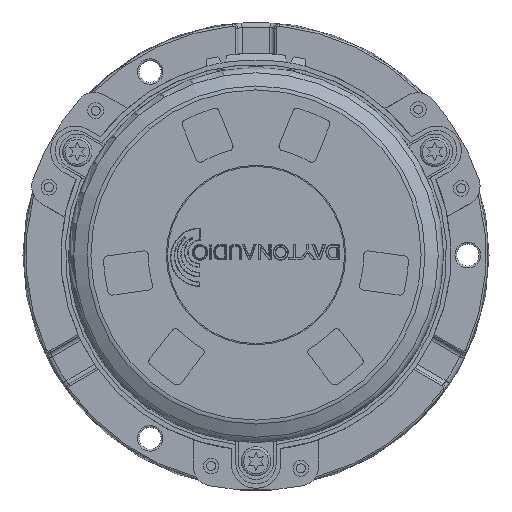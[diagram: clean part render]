
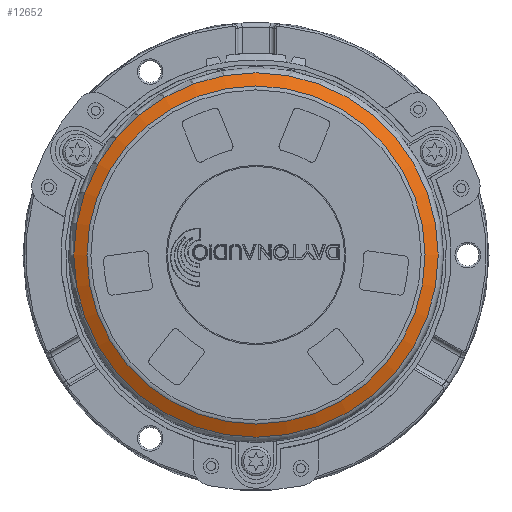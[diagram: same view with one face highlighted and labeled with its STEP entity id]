
A CAD part, front view. The second image highlights one B-rep face of the part: STEP entity #12652.
In plain terms, the highlighted conical face has half-angle 64.093 degrees and reference radius 39.157 mm.
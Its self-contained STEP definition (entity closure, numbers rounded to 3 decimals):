
#438=CONICAL_SURFACE('',#13806,39.157,1.119);
#1380=FACE_OUTER_BOUND('',#2203,.T.);
#2203=EDGE_LOOP('',(#10548,#10549,#10550,#10551,#10552,#10553));
#3241=LINE('',#24484,#4197);
#4197=VECTOR('',#16722,39.157);
#4711=CIRCLE('',#13761,40.624);
#4715=CIRCLE('',#13765,40.624);
#4736=CIRCLE('',#13807,37.69);
#4737=CIRCLE('',#13808,37.69);
#5835=VERTEX_POINT('',#24367);
#5836=VERTEX_POINT('',#24368);
#5872=VERTEX_POINT('',#24483);
#5873=VERTEX_POINT('',#24485);
#7437=EDGE_CURVE('',#5835,#5836,#4711,.T.);
#7441=EDGE_CURVE('',#5836,#5835,#4715,.T.);
#7495=EDGE_CURVE('',#5836,#5872,#3241,.T.);
#7496=EDGE_CURVE('',#5872,#5873,#4736,.T.);
#7497=EDGE_CURVE('',#5873,#5872,#4737,.T.);
#10548=ORIENTED_EDGE('',*,*,#7437,.T.);
#10549=ORIENTED_EDGE('',*,*,#7495,.T.);
#10550=ORIENTED_EDGE('',*,*,#7496,.T.);
#10551=ORIENTED_EDGE('',*,*,#7497,.T.);
#10552=ORIENTED_EDGE('',*,*,#7495,.F.);
#10553=ORIENTED_EDGE('',*,*,#7441,.T.);
#12652=ADVANCED_FACE('',(#1380),#438,.T.);
#13761=AXIS2_PLACEMENT_3D('',#24369,#16597,#16598);
#13765=AXIS2_PLACEMENT_3D('',#24374,#16605,#16606);
#13806=AXIS2_PLACEMENT_3D('',#24482,#16720,#16721);
#13807=AXIS2_PLACEMENT_3D('',#24486,#16723,#16724);
#13808=AXIS2_PLACEMENT_3D('',#24487,#16725,#16726);
#16597=DIRECTION('center_axis',(0.,-1.,0.));
#16598=DIRECTION('ref_axis',(1.,0.,0.));
#16605=DIRECTION('center_axis',(0.,-1.,0.));
#16606=DIRECTION('ref_axis',(1.,0.,0.));
#16720=DIRECTION('center_axis',(0.,1.,0.));
#16721=DIRECTION('ref_axis',(1.,0.,0.));
#16722=DIRECTION('',(0.9,-0.437,0.));
#16723=DIRECTION('center_axis',(0.,1.,0.));
#16724=DIRECTION('ref_axis',(1.,0.,0.));
#16725=DIRECTION('center_axis',(0.,1.,0.));
#16726=DIRECTION('ref_axis',(1.,0.,0.));
#24367=CARTESIAN_POINT('',(40.624,1.626,0.));
#24368=CARTESIAN_POINT('',(-40.624,1.626,0.));
#24369=CARTESIAN_POINT('Origin',(0.,1.626,0.));
#24374=CARTESIAN_POINT('Origin',(0.,1.626,0.));
#24482=CARTESIAN_POINT('Origin',(0.,0.914,0.));
#24483=CARTESIAN_POINT('',(-37.69,0.201,0.));
#24484=CARTESIAN_POINT('',(-39.157,0.914,0.));
#24485=CARTESIAN_POINT('',(-37.689,0.201,-0.169));
#24486=CARTESIAN_POINT('Origin',(0.,0.201,0.));
#24487=CARTESIAN_POINT('Origin',(0.,0.201,0.));
